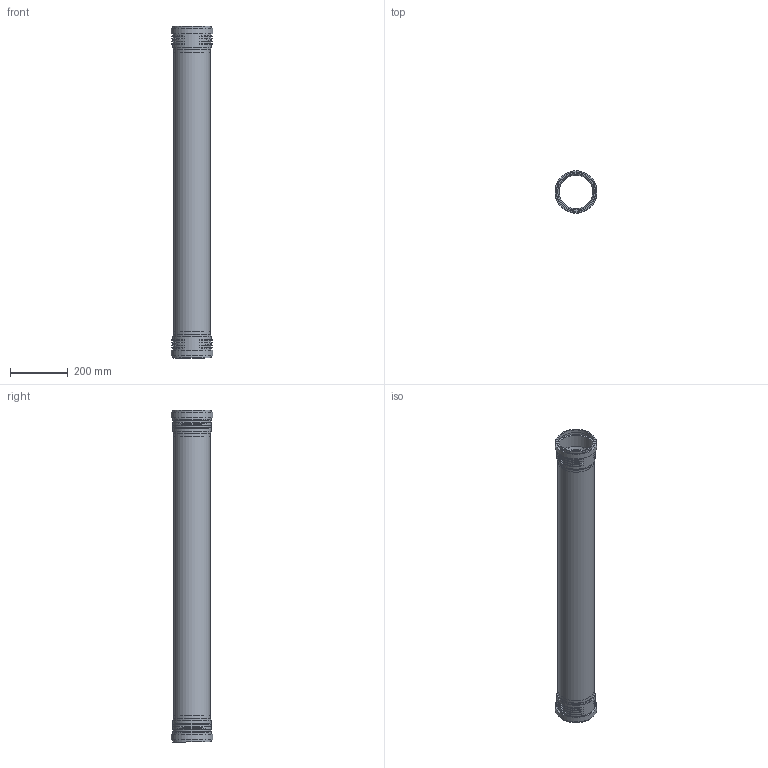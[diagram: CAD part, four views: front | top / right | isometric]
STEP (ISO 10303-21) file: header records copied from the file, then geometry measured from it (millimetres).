
FILE_DESCRIPTION(/* description */ (''),/* implementation_level */ '2;1');
FILE_NAME(/* name */ 'Z:\Geberit\Export\NewStep\Rohr2Muffen_Iassembly\stp\390611.stp',/* time_stamp */ '2014-04-03T17:51:19+02:00',/* author */ ('ML'),/* organization */ (''),/* preprocessor_version */ 'ST-DEVELOPER v15.2',/* originating_system */ 'Autodesk Inventor 2014',/* authorisation */ '');
FILE_SCHEMA (('AUTOMOTIVE_DESIGN { 1 0 10303 214 3 1 1 }'));
Length unit declared in the file: millimetre
Products named in the file (3): 861655; 861586ohne; 390611
Bounding box: 144.95 x 144.95 x 1147.8 mm (x, y, z)
Volume: 1937453 mm3; surface area: 935902 mm2
Topology: 3 solids, 3 shells, 88 faces, 198 edges, 136 vertices
Faces by surface type: torus 48, cylinder 20, plane 18, cone 2
Full cylindrical faces by diameter (mm): 116.8 x3, 125.2 x3, 126.2 x4, 130.4 x2, 134.6 x4, 136.55 x2, 144.95 x2
Entity records: 1990 total; most frequent: CARTESIAN_POINT 960, DIRECTION 180, ORIENTED_EDGE 172, AXIS2_PLACEMENT_3D 90, EDGE_CURVE 86, EDGE_LOOP 76, VERTEX_POINT 70, B_SPLINE_CURVE_WITH_KNOTS 48
